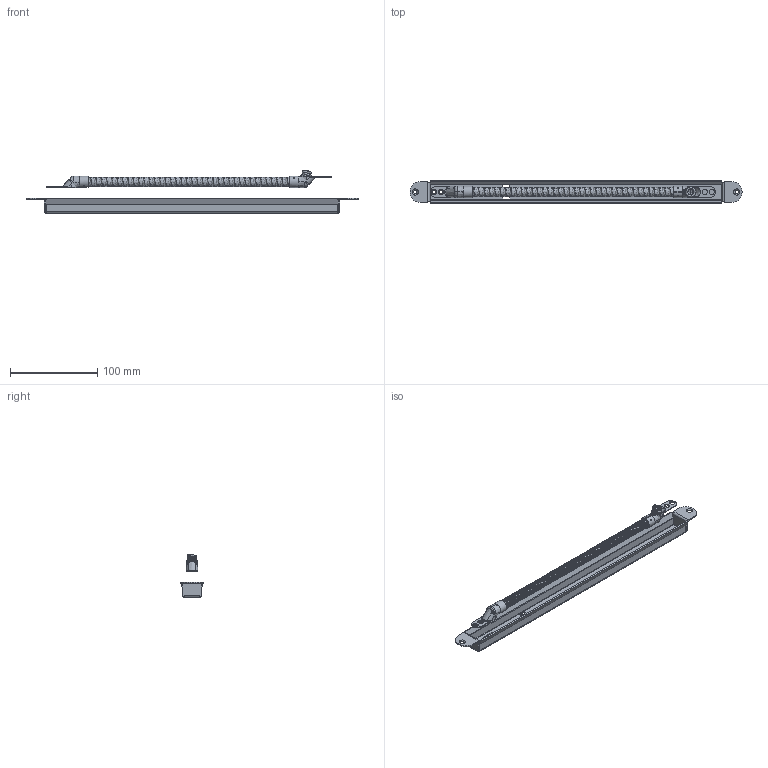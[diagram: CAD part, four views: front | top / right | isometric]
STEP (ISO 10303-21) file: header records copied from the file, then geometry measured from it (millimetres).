
FILE_DESCRIPTION(/* description */ (''),/* implementation_level */ '2;1');
FILE_NAME(/* name */ 'S:\Projekte\10 17 Hörmann Kabelübergang neu\Zeichungen\Endprodukt\M 11 15_23\M 11 15_23.stp',/* time_stamp */ '2014-06-18T13:16:45+02:00',/* author */ ('jsuarez'),/* organization */ (''),/* preprocessor_version */ 'ST-DEVELOPER v15.2',/* originating_system */ 'Autodesk Inventor 2014',/* authorisation */ '');
FILE_SCHEMA (('CONFIG_CONTROL_DESIGN'));
Length unit declared in the file: millimetre
Products named in the file (1): M 11 15_23
Bounding box: 380 x 26.95 x 48.84 mm (x, y, z)
Volume: 39139.4 mm3; surface area: 68472 mm2
Topology: 2 solids, 2 shells, 243 faces, 697 edges, 435 vertices
Faces by surface type: plane 98, bspline 65, cylinder 60, cone 12, sphere 6, torus 2
Full cylindrical faces by diameter (mm): 1.6 x2, 3.242 x2, 4.5 x2, 4.7 x2
Entity records: 27038 total; most frequent: CARTESIAN_POINT 21061, ORIENTED_EDGE 1306, DIRECTION 950, EDGE_CURVE 653, VERTEX_POINT 420, AXIS2_PLACEMENT_3D 352, EDGE_LOOP 315, LINE 246
